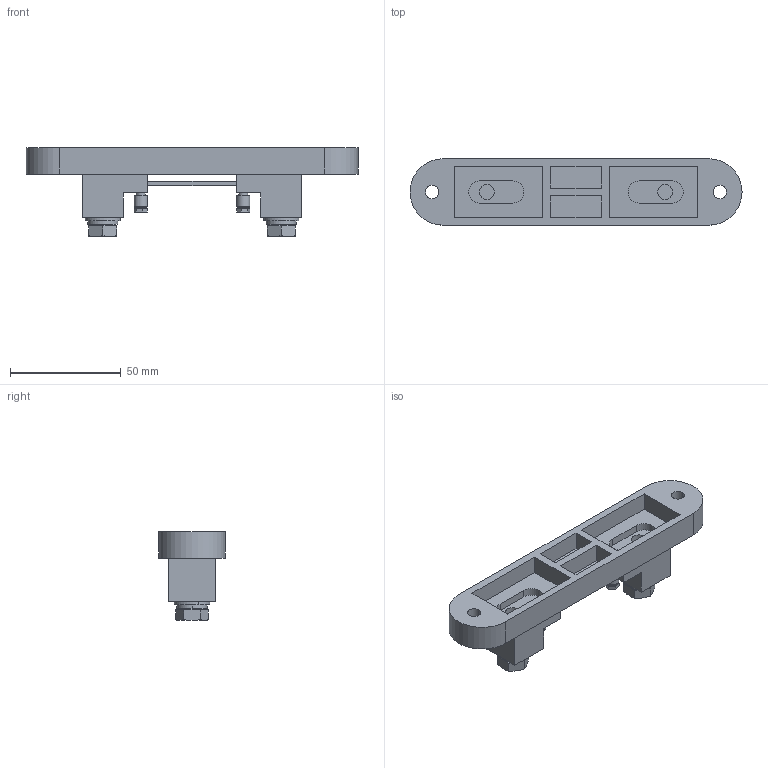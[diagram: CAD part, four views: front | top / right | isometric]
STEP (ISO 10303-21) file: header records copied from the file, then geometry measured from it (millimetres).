
FILE_DESCRIPTION (( 'STEP AP203' ), '1' );
FILE_NAME ('RTBS0100B075Z00.STEP', '2023-12-13T06:15:11', ( 'meks@163.com' ), ( '' ), 'SwSTEP 2.0', 'SolidWorks 2020', '' );
FILE_SCHEMA (( 'CONFIG_CONTROL_DESIGN' ));
Length unit declared in the file: millimetre
Products named in the file (9): single coil lock washers light type gb_GB_FASTENER_WASHER_SSWL 8; 價极001; hexagon head bolts-full thread gb_GB_FASTENER_BOLT_STBAB A M8X20-S; plain washers--product grade c gb_GB_FASTENER_WASHER_SMWC 8; RCBS 200菁釱; RTBS0100B075Z00; 萇郯极; single coil lock washers light type gb_GB_FASTENER_WASHER_SSWL 3; hexagon head bolts-full thread gb_GB_FASTENER_BOLT_STBAB A M3X6-S
Assembly tree (14 placements, depth 2):
  RTBS0100B075Z00
    價极001  x2
    萇郯极
    plain washers--product grade c gb_GB_FASTENER_WASHER_SMWC 8  x2
    single coil lock washers light type gb_GB_FASTENER_WASHER_SSWL 8  x2
    hexagon head bolts-full thread gb_GB_FASTENER_BOLT_STBAB A M8X20-S  x2
    single coil lock washers light type gb_GB_FASTENER_WASHER_SSWL 3  x2
    hexagon head bolts-full thread gb_GB_FASTENER_BOLT_STBAB A M3X6-S  x2
    RCBS 200菁釱
Bounding box: 150 x 30 x 40.15 mm (x, y, z)
Volume: 51752.5 mm3; surface area: 28966.3 mm2
Topology: 14 solids, 14 shells, 775 faces, 1645 edges, 912 vertices
Faces by surface type: cone 396, cylinder 237, plane 142
Entity records: 12190 total; most frequent: DIRECTION 2081, CARTESIAN_POINT 1987, ORIENTED_EDGE 1770, EDGE_CURVE 885, AXIS2_PLACEMENT_3D 813, VERTEX_POINT 499, VECTOR 455, LINE 455
